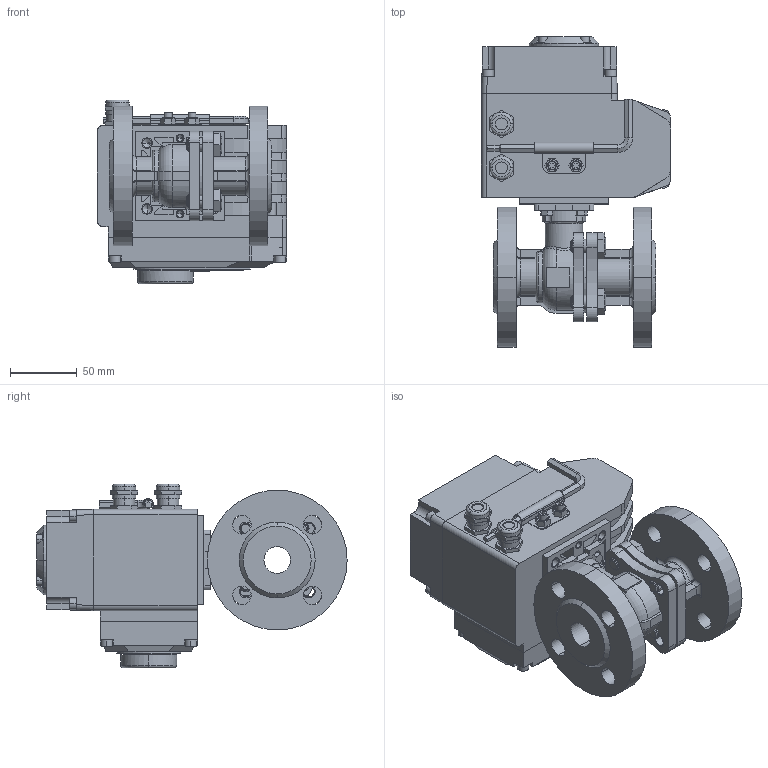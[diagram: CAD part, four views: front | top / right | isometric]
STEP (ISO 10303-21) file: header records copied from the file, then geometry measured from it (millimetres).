
FILE_DESCRIPTION((''),'2;1');
FILE_NAME('BV-22F_EAR_T_ASM','2025-03-03T',('USER'),(''),'PRO/ENGINEER BY PARAMETRIC TECHNOLOGY CORPORATION, 2011220','PRO/ENGINEER BY PARAMETRIC TECHNOLOGY CORPORATION, 2011220','');
FILE_SCHEMA(('CONFIG_CONTROL_DESIGN'));
Length unit declared in the file: millimetre
Products named in the file (15): KORPUS_KRAN_FL; B-7798-M10-20; SB_KRAN_FL_ASM; DET_1; V-11738-M5; V-11738-M4; DET_2; KREPLENIE; KLUCH; DET_3; G-5915-M6; ELECTROPRIVOD_ASM; ELECTROPRIVOD_WITH_DISPLAY_ASM; BOLT; BV-22F_EAR_T_ASM
Assembly tree (31 placements, depth 4):
  BV-22F_EAR_T_ASM
    SB_KRAN_FL_ASM
      KORPUS_KRAN_FL
      B-7798-M10-20  x4
    ELECTROPRIVOD_WITH_DISPLAY_ASM
      ELECTROPRIVOD_ASM
        DET_1
        V-11738-M5  x8
        V-11738-M4  x4
        DET_2
        KREPLENIE
        KLUCH
        DET_3
        G-5915-M6  x2
    BOLT  x4
Bounding box: 142 x 233 x 138 mm (x, y, z)
Volume: 1734613.1 mm3; surface area: 246891.3 mm2
Topology: 28 solids, 68 shells, 1393 faces, 3586 edges, 2350 vertices
Faces by surface type: plane 865, cylinder 405, cone 82, torus 25, bspline 16
Entity records: 35634 total; most frequent: CARTESIAN_POINT 7388, DIRECTION 5845, ORIENTED_EDGE 5696, EDGE_CURVE 2896, VECTOR 2041, LINE 2041, VERTEX_POINT 1912, AXIS2_PLACEMENT_3D 1902
